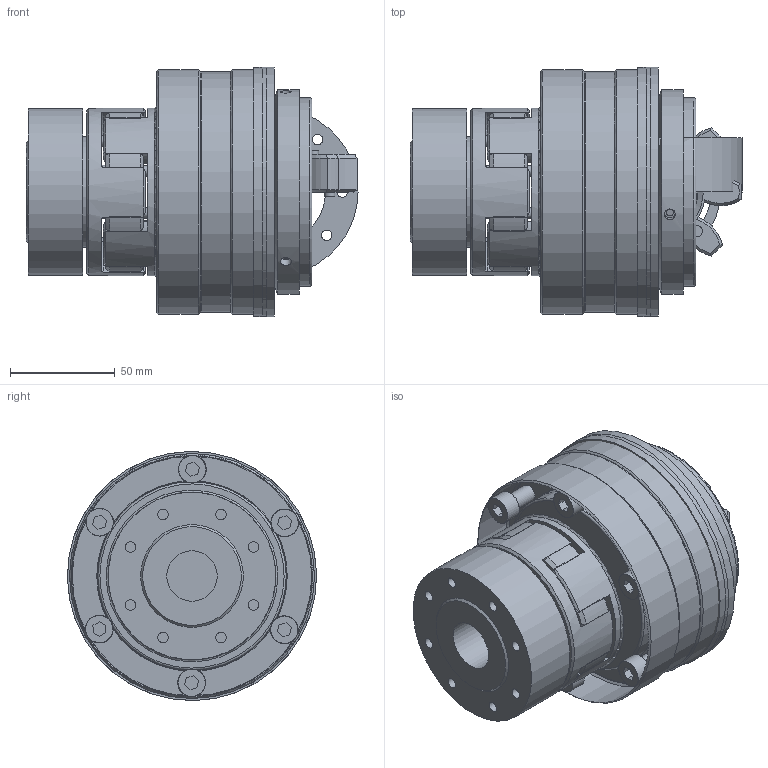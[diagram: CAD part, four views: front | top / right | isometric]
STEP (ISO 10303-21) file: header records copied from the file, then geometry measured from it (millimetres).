
FILE_DESCRIPTION( ( 'Unknown' ), '1' );
FILE_NAME( 'C:/Dokumente und Einstellungen/Sven/Desktop/hp kbk/E-AP/KBK EAP-38-127.stp', 'Unknown', ( 'Unknown' ), ( 'Unknown' ), 'XStep 1.0', 'Unknown', ' ' );
FILE_SCHEMA( ( 'automotive_design' ) );
Length unit declared in the file: millimetre
Products named in the file (17): Assem1; Assem2; Assem3; Assem4; ball_bearing_-_6011_0_01; ball_bearing_-_6011_0_02; ball_bearing_-_6011_0_03; Zylinderschraube DIN 912_4; Kupplung L-P-300 Grundkörper; Stellring 300; Druckring 300; Flansch 300; a_55; Elastomerflansch 38; Zahnkranz_38_Standard; KBE3-38_Druckring; KBE3 C - 38 Nabe
Bounding box: 158.55 x 119 x 119 mm (x, y, z)
Volume: 1622719.9 mm3; surface area: 483259 mm2
Topology: 35 solids, 35 shells, 863 faces, 1972 edges, 1257 vertices
Faces by surface type: cylinder 336, plane 258, cone 220, torus 49
Full cylindrical faces by diameter (mm): 2.5 x4, 3.242 x6, 4.917 x8, 5 x32, 5.2 x6, 6.5 x16, 6.647 x12, 8 x8, 8.2 x12, 11 x16, 13 x8, 13.2 x12, 24 x2, 38 x4, 40 x2, 46 x2, 48 x2, 52 x2, 53 x2, 55 x7, 66.3 x6, 70 x2, 76 x4, 79.1 x6, 80 x6, 83.5 x2, 88 x2, 90 x7, 98 x2, 98.5 x2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
Entity records: 11052 total; most frequent: CARTESIAN_POINT 2417, DIRECTION 1876, ORIENTED_EDGE 1404, AXIS2_PLACEMENT_3D 879, EDGE_CURVE 702, EDGE_LOOP 634, VERTEX_POINT 514, FACE_OUTER_BOUND 491
